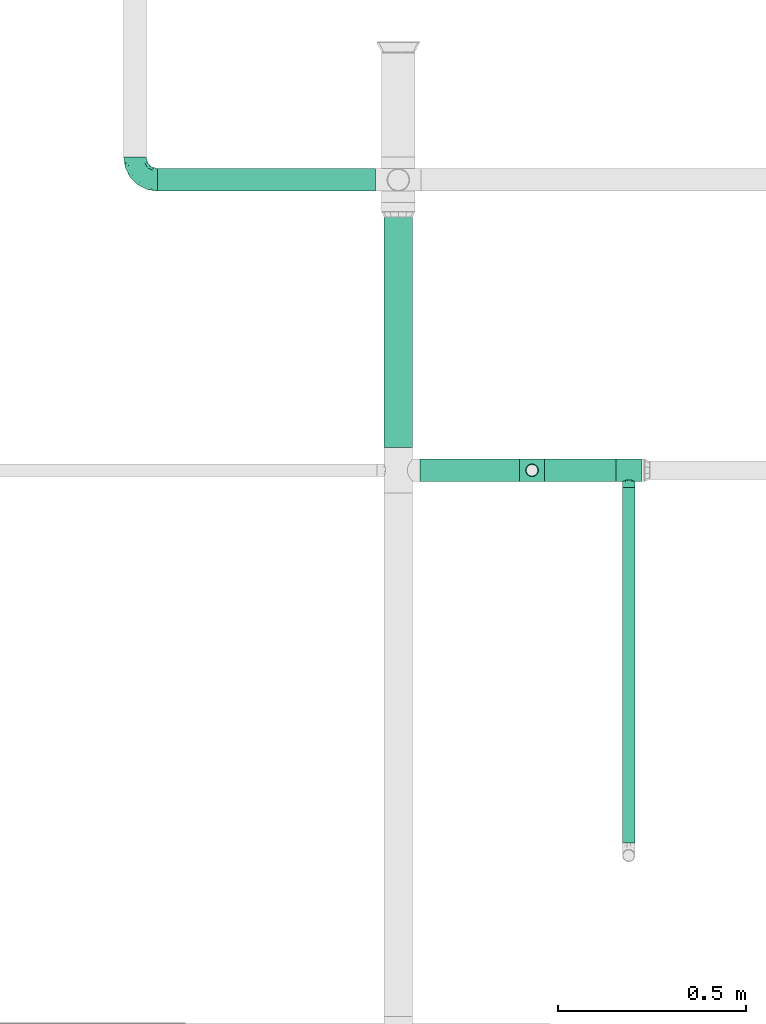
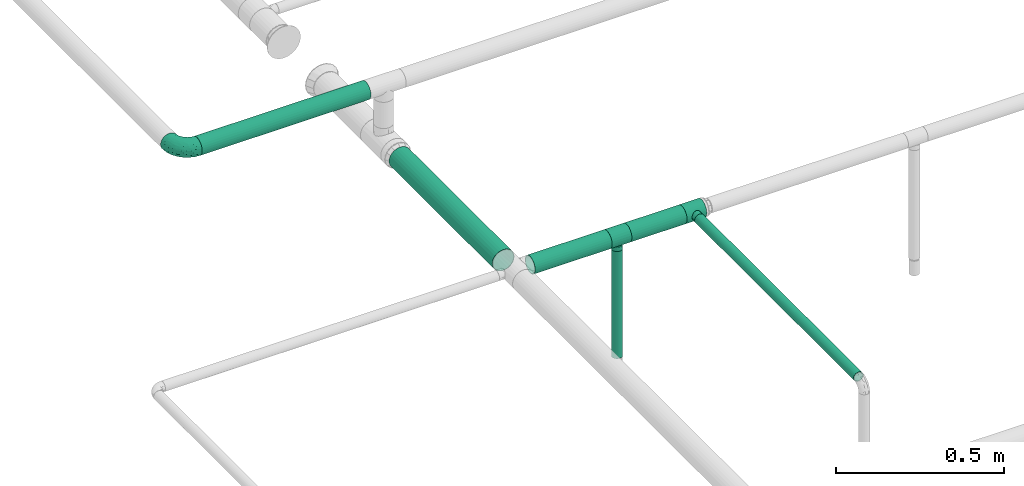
# One storey, part 3 of 45: 6 flow segments, 3 flow fittings.
"""IFC2X3 building model written with IfcOpenShell, lengths in millimetres."""

from ifc_helpers import new_model, entity, si_unit, converted_unit, derived_unit, direction, frame, origin_with_axes, origin_2d_with_axis, place, context, subcontext, project, spatial, hollow_circle, extrude, open_shell, surface_model, source, transform, mapped, type_object, element, save


model = new_model("IFC2X3")

# Units and contexts
model_context = context("Model", 3, precision=0.01, world=frame((0.0, 4.29681676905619e-09, 0.0)), true_north=direction((4.01073788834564e-13, 1.0)))
plan_context = context("Plan", 3, precision=0.01, world=frame((0.0, 4.29681676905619e-09, 0.0)), true_north=direction((4.01073788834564e-13, 1.0)))
body_context = subcontext(model_context, "Body", "Model", "MODEL_VIEW")
ifc_project = project(units=[converted_unit("PLANEANGLEUNIT", "DEGREE", entity("IfcPositiveLengthMeasure", 0.0174532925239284), si_unit("PLANEANGLEUNIT", "RADIAN"), dimensions=[0, 0, 0, 0, 0, 0, 0]), si_unit("AREAUNIT", "SQUARE_METRE"), si_unit("LENGTHUNIT", "METRE", prefix="MILLI"), si_unit("MASSUNIT", "GRAM", prefix="KILO"), si_unit("POWERUNIT", "WATT"), si_unit("PRESSUREUNIT", "PASCAL", prefix="KILO"), si_unit("FORCEUNIT", "NEWTON", prefix="KILO"), si_unit("ELECTRICVOLTAGEUNIT", "VOLT"), si_unit("ELECTRICCURRENTUNIT", "AMPERE"), si_unit("THERMODYNAMICTEMPERATUREUNIT", "DEGREE_CELSIUS"), si_unit("TIMEUNIT", "SECOND"), si_unit("VOLUMEUNIT", "CUBIC_METRE"), derived_unit("LINEARVELOCITYUNIT", [(si_unit("LENGTHUNIT", "METRE"), 1), (si_unit("TIMEUNIT", "SECOND"), -1)]), derived_unit("VOLUMETRICFLOWRATEUNIT", [(si_unit("VOLUMEUNIT", "CUBIC_METRE"), 1), (si_unit("TIMEUNIT", "SECOND"), -1)]), derived_unit("THERMALTRANSMITTANCEUNIT", [(si_unit("POWERUNIT", "WATT"), 1), (si_unit("THERMODYNAMICTEMPERATUREUNIT", "KELVIN"), -1), (si_unit("AREAUNIT", "SQUARE_METRE"), -1)]), derived_unit("SOUNDPRESSUREUNIT", [(si_unit("PRESSUREUNIT", "PASCAL"), 1)])], contexts=[model_context, plan_context])

# Site, building, storey
site_placement = place(None, frame((0.0, -4.29681676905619e-09, 0.0), z_axis=(0.0, 0.0, 1.0), x_axis=(1.0, 0.0, 0.0)))
site = spatial("IfcSite", under=ifc_project, at=site_placement, CompositionType="ELEMENT")
building_placement = place(site_placement, frame((0.0, 4.29681676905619e-09, 0.0), z_axis=(0.0, 0.0, 1.0), x_axis=(1.0, 0.0, 0.0)))
building = spatial("IfcBuilding", under=site, at=building_placement, Name="mc-building", CompositionType="ELEMENT")
storey_placement = place(building_placement, frame((0.0, 0.0, 210200.0), z_axis=(0.0, 0.0, 1.0), x_axis=(1.0, 0.0, 0.0)))
storey = spatial("IfcBuildingStorey", under=building, at=storey_placement, Name="Nivå F - 0,7 m", CompositionType="ELEMENT", Elevation=210200.0)

# Flow fittings
pipe_fitting_type_1 = type_object("IfcPipeFittingType", Name="magi_pipe_fe_tee_centric_90_001", PredefinedType="JUNCTION")
shared_shape_1 = source(origin_with_axes(), body_context, "Body", "SurfaceModel", [
    surface_model("IfcShellBasedSurfaceModel", [(-33.8, 15.1, -26.15397), (-33.8, 7.81634, -29.17096), (-33.8, 0.0, -30.2), (-33.8, 29.17096, -7.81634), (-33.8, 26.15397, -15.1), (-33.8, 21.35462, -21.35462), (-33.8, 30.2, 0.0), (-33.8, -30.2, 0.0), (-33.8, -15.1, -26.15397), (-33.8, -21.35462, -21.35462), (-33.8, -7.81634, -29.17096), (-33.8, -26.15397, -15.1), (-33.8, -29.17096, -7.81634), (-33.8, 26.15397, 15.1), (-33.8, 29.17096, 7.81634), (-33.8, 15.1, 26.15397), (-33.8, -21.35462, 21.35462), (-33.8, 21.35462, 21.35462), (-33.8, 7.81634, 29.17096), (-33.8, -29.17096, 7.81634), (-33.8, -26.15397, 15.1), (-33.8, -7.81634, 29.17096), (-33.8, 0.0, 30.2), (-33.8, -15.1, 26.15397), (33.8, 29.17096, -7.81634), (33.8, 0.0, -30.2), (33.8, 7.81634, -29.17096), (33.8, 21.35462, -21.35462), (33.8, 15.1, -26.15397), (33.8, 26.15397, -15.1), (33.8, -30.2, 0.0), (33.8, -7.81634, -29.17096), (33.8, -21.35462, -21.35462), (33.8, -15.1, -26.15397), (33.8, -29.17096, -7.81634), (33.8, -26.15397, -15.1), (33.8, 30.2, 0.0), (33.8, 29.17096, 7.81634), (33.8, 26.15397, 15.1), (33.8, -29.17096, 7.81634), (33.8, 15.1, 26.15397), (33.8, 7.81634, 29.17096), (33.8, 21.35462, 21.35462), (33.8, -21.35462, 21.35462), (33.8, -26.15397, 15.1), (33.8, -15.1, 26.15397), (33.8, 0.0, 30.2), (33.8, -7.81634, 29.17096), (33.8, -29.68548, 3.90817), (15.846, -29.62306, 5.87488), (16.373, -29.91153, 2.93744), (12.91037, -28.16217, 10.90561), (2.99213, -25.2068, 16.63301), (16.9, -30.2, 0.0), (33.8, -27.66246, 11.45817), (8.50854, -26.43531, 14.60187), (-8.51006, -26.43579, 14.60099), (-33.8, -27.66246, 11.45817), (-12.91447, -28.16405, 10.90075), (-15.84655, -29.62335, 5.87341), (-33.8, -29.68548, 3.90817), (-16.37327, -29.91168, 2.93671), (-16.9, -30.2, 0.0), (-2.99705, -25.20739, 16.63213), (2.99213, -25.2068, -16.63301), (-16.37327, -29.91168, -2.93671), (8.50854, -26.43531, -14.60187), (33.8, -27.66246, -11.45817), (16.373, -29.91153, -2.93744), (-33.8, -29.68548, -3.90817), (-15.84655, -29.62335, -5.87341), (15.846, -29.62306, -5.87488), (12.91037, -28.16217, -10.90561), (33.8, -29.68548, -3.90817), (-2.99705, -25.20739, -16.63213), (-8.51006, -26.43579, -14.60099), (-12.91447, -28.16405, -10.90075), (-33.8, -27.66246, -11.45817), (4.37404, -45.3, -16.32415), (-16.9, -45.3, 0.0), (0.0, -45.3, -16.9), (14.63583, -45.3, -8.45), (8.45, -45.3, -14.63583), (16.32415, -45.3, -4.37404), (11.9501, -45.3, -11.9501), (-11.9501, -45.3, -11.9501), (-8.45, -45.3, -14.63583), (-4.37404, -45.3, -16.32415), (-14.63583, -45.3, -8.45), (-16.32415, -45.3, -4.37404), (16.9, -45.3, 0.0), (8.45, -45.3, 14.63583), (16.32415, -45.3, 4.37404), (14.63583, -45.3, 8.45), (-8.45, -45.3, 14.63583), (11.9501, -45.3, 11.9501), (4.37404, -45.3, 16.32415), (-16.32415, -45.3, 4.37404), (-11.9501, -45.3, 11.9501), (-14.63583, -45.3, 8.45), (0.0, -45.3, 16.9), (-4.37404, -45.3, 16.32415), (-5.75355, -25.82159, 15.61656), (-0.00246, -25.20709, 16.63257), (5.75034, -25.82105, 15.61744), (5.75034, -25.82105, -15.61744), (-0.00246, -25.20709, -16.63257), (-5.75355, -25.82159, -15.61656)], [open_shell([[[0, 1, 2]], [[3, 0, 2]], [[0, 3, 4]], [[5, 0, 4]], [[6, 2, 7]], [[8, 9, 10]], [[9, 2, 10]], [[11, 12, 9]], [[7, 9, 12]], [[9, 7, 2]], [[6, 3, 2]], [[13, 14, 6]], [[7, 15, 13]], [[7, 16, 15]], [[17, 13, 15]], [[18, 15, 16]], [[19, 20, 7]], [[7, 20, 16]], [[21, 22, 23]], [[16, 23, 22]], [[16, 22, 18]], [[7, 13, 6]], [[24, 25, 26]], [[27, 26, 28]], [[29, 24, 26]], [[29, 26, 27]], [[25, 24, 30]], [[31, 32, 33]], [[32, 31, 34]], [[32, 34, 35]], [[34, 31, 30]], [[31, 25, 30]], [[24, 36, 30]], [[36, 37, 38]], [[39, 36, 38]], [[40, 41, 38]], [[40, 38, 42]], [[43, 38, 41]], [[39, 43, 44]], [[39, 38, 43]], [[45, 46, 47]], [[46, 45, 43]], [[41, 46, 43]], [[36, 39, 30]], [[48, 39, 49]], [[30, 48, 50]], [[39, 51, 49]], [[44, 43, 52]], [[30, 50, 53]], [[51, 54, 55]], [[52, 55, 44]], [[48, 49, 50]], [[43, 16, 52]], [[55, 54, 44]], [[56, 57, 58]], [[59, 60, 61]], [[62, 61, 7]], [[59, 58, 19]], [[56, 63, 20]], [[51, 39, 54]], [[20, 57, 56]], [[20, 63, 16]], [[58, 57, 19]], [[63, 52, 16]], [[7, 61, 60]], [[59, 19, 60]], [[43, 23, 16]], [[22, 47, 46]], [[21, 45, 47]], [[18, 46, 41]], [[38, 37, 14]], [[17, 40, 42]], [[13, 42, 38]], [[41, 40, 15]], [[6, 37, 36]], [[23, 45, 21]], [[21, 47, 22]], [[18, 22, 46]], [[41, 15, 18]], [[15, 40, 17]], [[13, 17, 42]], [[14, 13, 38]], [[37, 6, 14]], [[45, 23, 43]], [[4, 24, 29]], [[3, 36, 24]], [[5, 29, 27]], [[25, 31, 10]], [[1, 28, 26]], [[2, 26, 25]], [[27, 28, 0]], [[8, 31, 33]], [[6, 36, 3]], [[3, 24, 4]], [[5, 4, 29]], [[27, 0, 5]], [[0, 28, 1]], [[2, 1, 26]], [[10, 2, 25]], [[31, 8, 10]], [[33, 9, 8]], [[32, 35, 64]], [[7, 65, 62]], [[66, 64, 35]], [[67, 66, 35]], [[32, 64, 9]], [[53, 68, 30]], [[69, 70, 65]], [[71, 72, 34]], [[71, 73, 68]], [[66, 67, 72]], [[34, 72, 67]], [[74, 75, 11]], [[76, 12, 77]], [[11, 9, 74]], [[76, 77, 75]], [[74, 9, 64]], [[76, 70, 12]], [[71, 34, 73]], [[70, 69, 12]], [[65, 7, 69]], [[30, 68, 73]], [[77, 11, 75]], [[32, 9, 33]], [[78, 79, 80]], [[81, 78, 82]], [[81, 83, 78]], [[81, 82, 84]], [[79, 78, 83]], [[80, 85, 86]], [[86, 87, 80]], [[88, 79, 89]], [[85, 80, 88]], [[79, 88, 80]], [[83, 90, 79]], [[91, 90, 92]], [[91, 92, 93]], [[94, 79, 91]], [[91, 93, 95]], [[94, 91, 96]], [[97, 98, 99]], [[98, 97, 94]], [[94, 100, 101]], [[97, 79, 94]], [[96, 100, 94]], [[91, 79, 90]], [[97, 61, 79]], [[58, 99, 98]], [[97, 99, 59]], [[98, 94, 56]], [[61, 62, 79]], [[59, 99, 58]], [[101, 63, 102]], [[56, 58, 98]], [[100, 52, 103]], [[91, 104, 96]], [[100, 96, 52]], [[50, 49, 92]], [[50, 90, 53]], [[104, 91, 55]], [[102, 94, 101]], [[102, 56, 94]], [[100, 63, 101]], [[97, 59, 61]], [[55, 91, 95]], [[95, 51, 55]], [[52, 96, 104]], [[92, 49, 93]], [[90, 50, 92]], [[93, 49, 51]], [[93, 51, 95]], [[103, 63, 100]], [[83, 68, 90]], [[72, 81, 84]], [[83, 81, 71]], [[84, 82, 66]], [[68, 53, 90]], [[71, 81, 72]], [[78, 64, 105]], [[66, 72, 84]], [[80, 74, 106]], [[86, 107, 87]], [[65, 70, 89]], [[105, 82, 78]], [[105, 66, 82]], [[75, 86, 85]], [[83, 71, 68]], [[70, 88, 89]], [[65, 79, 62]], [[85, 88, 76]], [[80, 64, 78]], [[87, 107, 74]], [[74, 80, 87]], [[75, 107, 86]], [[75, 85, 76]], [[76, 88, 70]], [[79, 65, 89]], [[106, 64, 80]]])]),
])
for number, where, z_axis, x_axis, name in (
    (1, (324474.5, 461628.40208, 2938.0), (0.0, 1.0, 0.0), (-1.0, 0.0, 0.0), "magi_pipe_fe_tee_centric_90_001"),
    (2, (324731.5, 461628.40208, 2938.0), (0.0, 0.0, -1.0), (-1.0, 0.0, 0.0), "magi_pipe_fe_tee_centric_90_001"),
):
    element("IfcFlowFitting", number, at=place(storey_placement, frame(where, z_axis=z_axis, x_axis=x_axis)), inside=storey, type_object=pipe_fitting_type_1, Name=name, context=body_context, shape_type="MappedRepresentation", body=[
        mapped(shared_shape_1, transform((0.0, 0.0, 0.0), scale=1.0)),
    ])
pipe_fitting_type_2 = type_object("IfcPipeFittingType", Name="magi_pipe_fe_elbow_short_001", PredefinedType="BEND")
shared_shape_2 = source(origin_with_axes(), body_context, "Body", "SurfaceModel", [
    surface_model("IfcShellBasedSurfaceModel", [(-60.4, 15.1, -26.15397), (-60.4, 7.81634, -29.17096), (-60.4, 0.0, -30.2), (-60.4, -29.17096, -7.81634), (-60.4, -21.35462, 21.35462), (-60.4, 29.17096, -7.81634), (-60.4, 26.15397, -15.1), (-60.4, 21.35462, -21.35462), (-60.4, -15.1, -26.15397), (-60.4, -21.35462, -21.35462), (-60.4, -7.81634, -29.17096), (-60.4, -26.15397, -15.1), (-60.4, -30.2, 0.0), (-60.4, -29.17096, 7.81634), (-60.4, 30.2, 0.0), (-60.4, 29.17096, 7.81634), (-60.4, 26.15397, 15.1), (-60.4, 7.81634, 29.17096), (-60.4, 15.1, 26.15397), (-60.4, 21.35462, 21.35462), (-60.4, -26.15397, 15.1), (-60.4, -7.81634, 29.17096), (-60.4, 0.0, 30.2), (-60.4, -15.1, 26.15397), (0.0, 60.4, -30.2), (-7.81634, 60.4, -29.17096), (-15.1, 60.4, -26.15397), (21.35462, 60.4, 21.35462), (29.17096, 60.4, -7.81634), (-26.15397, 60.4, -15.1), (-29.17096, 60.4, -7.81634), (-21.35462, 60.4, -21.35462), (7.81634, 60.4, -29.17096), (21.35462, 60.4, -21.35462), (15.1, 60.4, -26.15397), (26.15397, 60.4, -15.1), (29.17096, 60.4, 7.81634), (30.2, 60.4, 0.0), (-30.2, 60.4, 0.0), (-29.17096, 60.4, 7.81634), (-26.15397, 60.4, 15.1), (-7.81634, 60.4, 29.17096), (-21.35462, 60.4, 21.35462), (-15.1, 60.4, 26.15397), (26.15397, 60.4, 15.1), (15.1, 60.4, 26.15397), (0.0, 60.4, 30.2), (7.81634, 60.4, 29.17096), (-40.79975, -26.48639, 9.49143), (-44.2927, -23.46036, 16.95222), (-32.40306, -25.76572, 0.0), (-45.54716, -27.84754, 0.0), (-7.73382, -10.42985, 11.64553), (-2.102, -8.06735, 6.35117), (1.74449, -1.74448, 12.51332), (-46.13593, -4.00068, 29.68351), (-42.2898, 4.62925, 30.14853), (10.31662, 7.37496, 11.34434), (18.44156, 24.57514, 15.02148), (7.07276, 10.95732, 19.27498), (-30.06693, -0.27102, 29.27145), (-44.17726, -11.39441, 27.16031), (-23.4551, -7.13383, 25.24246), (-38.74025, -17.25266, 22.43475), (-27.059, -23.14697, 6.2131), (-19.77486, -19.33133, 0.0), (-10.95732, -7.07276, 19.27498), (-5.39458, 5.39458, 24.69106), (-29.52069, 48.20084, 13.12597), (-25.22813, 47.01796, 19.8404), (-11.27311, 52.093, 28.2877), (-4.13904, 45.17494, 30.12582), (-46.55352, 11.8443, 28.52822), (-7.88305, 20.22717, 29.65331), (-15.00576, 5.54025, 28.20072), (-3.0852, 16.31623, 27.75343), (-52.24998, 18.2886, 24.60768), (-10.49591, 29.69865, 30.14582), (-22.36958, 22.36958, 29.4662), (-17.98262, 13.19715, 30.04443), (-47.74519, 32.16745, 6.63994), (-48.21585, 29.51581, 13.12396), (-37.49729, 37.49729, 11.28901), (-47.20967, 25.1754, 19.81929), (17.25266, 38.74025, 22.43475), (-31.32046, 40.03273, 17.09289), (11.39441, 44.17725, 27.16031), (23.46036, 44.2927, 16.95222), (26.48639, 40.79975, 9.49143), (-7.14666, -12.89694, 0.0), (-14.66463, -16.61192, 7.82462), (4.00068, 46.13593, 29.68351), (-33.18602, 12.93608, 29.65955), (-29.63414, 7.40029, 30.18711), (19.33133, 19.77486, 0.0), (23.14697, 27.059, 6.2131), (16.61192, 14.66463, 7.82462), (27.84754, 45.54716, 0.0), (-32.10611, 20.49149, 27.93323), (-24.57514, -18.44156, 15.02148), (-21.89487, 39.03366, 25.38224), (-18.45005, 50.6405, 24.73297), (-31.78933, 48.71949, 6.47886), (-37.84917, 39.61073, 5.315), (13.91334, 24.32737, 20.46816), (7.13383, 23.4551, 25.24246), (-34.24603, 45.3, 0.0), (-27.95749, 31.89166, 24.81537), (-41.58677, 20.50028, 25.43151), (-0.46157, 0.46157, 17.84239), (-17.23338, 31.26213, 29.03145), (-24.05994, 29.23812, 27.47858), (-13.06094, 40.92174, 28.76128), (-31.83392, 33.72702, 21.39203), (-38.78737, 32.45032, 16.84022), (0.27102, 30.06693, 29.27145), (-24.21469, -13.23741, 21.05734), (8.23548, 2.19333, 6.02161), (25.76572, 32.40306, 0.0), (12.89694, 7.14666, 0.0), (-45.3, 34.24603, 0.0), (2.87514, -2.87514, 0.0), (-44.53432, 26.00869, -20.11577), (-48.18822, 29.5248, -13.12766), (-24.67192, -7.62159, -25.33714), (-26.22398, -0.37671, -28.72374), (-12.13397, -0.50536, -24.74577), (-47.80891, 3.81859, -30.10171), (-44.05719, -27.03585, -9.84546), (-37.94552, -22.39569, -16.35738), (-28.81663, -22.64668, -10.132), (-43.93799, 12.32789, -28.63778), (-33.27, 7.1392, -30.19348), (-26.0087, 44.53432, -20.11577), (-48.89164, 31.68872, -6.60822), (-18.95522, 47.41145, -24.9828), (-12.32789, 43.93799, -28.63778), (-38.42778, 38.42778, -7.21049), (18.04263, 43.69152, -22.80146), (10.42233, 38.24532, -26.85918), (11.90576, 51.00473, -27.48545), (-5.88381, -10.62327, -7.95335), (-5.9694, -7.83116, -13.76182), (3.24899, -2.56331, -7.96861), (-17.62229, 16.32998, -30.18286), (-28.62959, 17.86952, -29.30113), (-47.41145, 18.95522, -24.98279), (-50.84455, -24.04089, -17.54629), (-29.38053, 34.30665, -22.74674), (-27.91099, 27.91099, -26.51666), (-36.91219, 25.51094, -23.99233), (2.63361, -0.55507, -12.94367), (-43.69152, -18.04263, -22.80146), (22.39569, 37.94552, -16.35738), (27.03585, 44.05719, -9.84546), (22.64668, 28.81663, -10.132), (-51.00473, -11.90576, -27.48545), (3.80785, 44.49426, -29.64782), (-19.0921, -14.69952, -16.47487), (-22.5489, -12.31934, -21.1263), (-10.94772, -7.46239, -18.88204), (-32.95885, -13.78948, -23.71249), (-38.24532, -10.42233, -26.85918), (-44.49427, -3.80785, -29.64782), (-22.6301, 37.15314, -25.58239), (-31.68872, 48.89164, -6.60822), (-3.8186, 47.80891, -30.10171), (-10.66133, 10.66133, -28.51691), (0.37671, 26.22398, -28.72374), (1.27136, 14.18619, -25.18541), (-29.5248, 48.18821, -13.12766), (-36.27113, 36.27113, -14.88553), (24.04089, 50.84455, -17.54629), (17.50188, 24.2636, -16.21902), (9.73525, 11.44907, -16.75087), (12.31934, 22.5489, -21.1263), (6.24176, 25.78208, -26.38266), (-7.1392, 33.27, -30.19348), (-36.7166, 19.4356, -27.21946), (-18.00754, 29.38864, -29.15505), (-0.28629, 0.28629, -17.49884), (-13.98848, -16.88492, -5.19509), (15.48569, 15.00432, -11.24742), (16.88492, 13.98848, -5.19509), (3.55782, 9.20508, -21.18402), (-15.00432, -15.48569, -11.24742)], [open_shell([[[0, 1, 2]], [[2, 3, 4]], [[0, 5, 6]], [[7, 0, 6]], [[2, 4, 0]], [[8, 9, 10]], [[9, 2, 10]], [[11, 3, 9]], [[9, 3, 2]], [[12, 13, 3]], [[5, 0, 4]], [[14, 4, 15]], [[16, 15, 17]], [[17, 18, 19]], [[16, 17, 19]], [[17, 15, 4]], [[20, 4, 13]], [[13, 4, 3]], [[21, 22, 23]], [[17, 4, 23]], [[17, 23, 22]], [[14, 5, 4]], [[24, 25, 26]], [[27, 28, 24]], [[29, 30, 26]], [[29, 26, 31]], [[26, 27, 24]], [[32, 33, 34]], [[32, 24, 33]], [[33, 28, 35]], [[24, 28, 33]], [[28, 36, 37]], [[27, 26, 30]], [[38, 39, 40]], [[38, 40, 41]], [[42, 43, 41]], [[42, 41, 40]], [[41, 27, 30]], [[36, 27, 44]], [[28, 27, 36]], [[45, 46, 47]], [[45, 27, 41]], [[46, 45, 41]], [[30, 38, 41]], [[48, 49, 20]], [[50, 48, 51]], [[52, 53, 54]], [[13, 48, 20]], [[13, 51, 48]], [[22, 55, 56]], [[20, 49, 4]], [[57, 58, 59]], [[60, 61, 62]], [[63, 23, 4]], [[63, 61, 23]], [[64, 50, 65]], [[62, 66, 67]], [[40, 68, 69]], [[41, 70, 71]], [[17, 72, 18]], [[73, 74, 75]], [[18, 76, 19]], [[21, 55, 22]], [[77, 78, 79]], [[80, 81, 82]], [[16, 83, 81]], [[84, 27, 45]], [[14, 15, 80]], [[15, 16, 81]], [[68, 85, 69]], [[83, 16, 19]], [[22, 56, 17]], [[45, 86, 84]], [[19, 76, 83]], [[87, 58, 88]], [[40, 39, 68]], [[89, 90, 65]], [[46, 91, 47]], [[65, 90, 64]], [[46, 41, 71]], [[92, 93, 79]], [[88, 36, 44]], [[44, 27, 87]], [[87, 88, 44]], [[94, 95, 96]], [[88, 97, 36]], [[98, 72, 92]], [[49, 99, 63]], [[69, 100, 101]], [[82, 102, 103]], [[104, 105, 59]], [[106, 102, 38]], [[98, 107, 108]], [[102, 82, 68]], [[86, 45, 47]], [[69, 42, 40]], [[109, 54, 57]], [[110, 100, 111]], [[23, 61, 21]], [[101, 43, 42]], [[70, 41, 43]], [[112, 77, 71]], [[84, 86, 105]], [[96, 95, 58]], [[100, 69, 113]], [[72, 17, 56]], [[108, 113, 83]], [[81, 114, 82]], [[112, 110, 77]], [[91, 71, 115]], [[62, 61, 63]], [[55, 61, 60]], [[116, 99, 66]], [[74, 62, 67]], [[91, 86, 47]], [[105, 86, 115]], [[75, 105, 115]], [[109, 67, 66]], [[59, 105, 67]], [[48, 64, 99]], [[99, 49, 48]], [[63, 4, 49]], [[27, 84, 87]], [[58, 87, 84]], [[92, 72, 56]], [[76, 72, 108]], [[102, 68, 39]], [[82, 114, 85]], [[98, 111, 107]], [[112, 70, 101]], [[114, 83, 113]], [[82, 103, 80]], [[92, 79, 78]], [[115, 71, 77]], [[74, 79, 60]], [[77, 79, 73]], [[71, 91, 46]], [[86, 91, 115]], [[61, 55, 21]], [[56, 55, 60]], [[57, 54, 117]], [[104, 59, 58]], [[116, 66, 62]], [[52, 99, 90]], [[13, 12, 51]], [[97, 88, 118]], [[97, 37, 36]], [[53, 90, 89]], [[90, 53, 52]], [[94, 96, 119]], [[88, 95, 118]], [[117, 54, 53]], [[92, 56, 93]], [[98, 92, 78]], [[111, 98, 78]], [[72, 98, 108]], [[110, 111, 78]], [[107, 111, 100]], [[38, 102, 39]], [[102, 106, 103]], [[106, 120, 103]], [[103, 120, 80]], [[14, 80, 120]], [[15, 81, 80]], [[56, 60, 93]], [[60, 79, 93]], [[117, 121, 119]], [[121, 117, 53]], [[53, 89, 121]], [[119, 96, 117]], [[117, 96, 57]], [[77, 110, 78]], [[100, 110, 112]], [[83, 114, 81]], [[85, 114, 113]], [[69, 85, 113]], [[82, 85, 68]], [[109, 52, 54]], [[99, 52, 66]], [[69, 101, 42]], [[112, 101, 100]], [[100, 113, 107]], [[108, 107, 113]], [[62, 74, 60]], [[75, 74, 67]], [[105, 75, 67]], [[73, 75, 115]], [[77, 73, 115]], [[74, 73, 79]], [[99, 64, 90]], [[50, 64, 48]], [[118, 95, 94]], [[58, 95, 88]], [[58, 57, 96]], [[109, 57, 59]], [[72, 76, 18]], [[83, 76, 108]], [[101, 70, 43]], [[71, 70, 112]], [[58, 84, 104]], [[105, 104, 84]], [[67, 109, 59]], [[52, 109, 66]], [[62, 63, 116]], [[99, 116, 63]], [[122, 6, 123]], [[124, 125, 126]], [[2, 1, 127]], [[128, 129, 130]], [[127, 131, 132]], [[29, 31, 133]], [[120, 134, 14]], [[135, 26, 136]], [[123, 134, 137]], [[138, 139, 140]], [[122, 7, 6]], [[141, 142, 143]], [[144, 132, 145]], [[131, 0, 146]], [[128, 11, 147]], [[148, 149, 150]], [[128, 51, 3]], [[142, 151, 143]], [[152, 9, 8]], [[153, 154, 155]], [[156, 152, 8]], [[32, 157, 24]], [[158, 159, 160]], [[147, 11, 9]], [[129, 152, 161]], [[156, 8, 10]], [[162, 163, 125]], [[154, 35, 28]], [[120, 106, 137]], [[149, 148, 164]], [[38, 30, 165]], [[163, 10, 2]], [[6, 5, 123]], [[25, 166, 136]], [[167, 168, 169]], [[170, 133, 171]], [[25, 24, 166]], [[34, 33, 138]], [[157, 32, 140]], [[30, 29, 170]], [[33, 35, 172]], [[26, 135, 31]], [[132, 131, 145]], [[32, 34, 140]], [[173, 174, 175]], [[169, 168, 176]], [[25, 136, 26]], [[175, 138, 173]], [[168, 177, 157]], [[163, 162, 156]], [[153, 172, 154]], [[11, 128, 3]], [[154, 97, 118]], [[131, 178, 145]], [[0, 7, 146]], [[175, 139, 138]], [[155, 118, 94]], [[131, 1, 0]], [[146, 178, 131]], [[170, 137, 165]], [[149, 179, 145]], [[171, 133, 148]], [[160, 180, 142]], [[65, 181, 89]], [[170, 165, 30]], [[137, 171, 123]], [[172, 138, 33]], [[138, 153, 173]], [[168, 157, 139]], [[166, 157, 177]], [[176, 175, 169]], [[168, 167, 144]], [[154, 28, 97]], [[155, 182, 173]], [[162, 124, 161]], [[147, 152, 129]], [[127, 163, 2]], [[132, 144, 125]], [[132, 125, 163]], [[125, 167, 126]], [[129, 158, 130]], [[28, 37, 97]], [[143, 182, 183]], [[169, 126, 167]], [[7, 122, 146]], [[178, 150, 149]], [[136, 179, 164]], [[133, 31, 135]], [[123, 5, 134]], [[122, 123, 171]], [[133, 170, 29]], [[137, 170, 171]], [[184, 175, 174]], [[180, 160, 126]], [[126, 169, 184]], [[126, 159, 124]], [[51, 128, 50]], [[51, 12, 3]], [[131, 127, 1]], [[163, 127, 132]], [[157, 166, 24]], [[136, 166, 177]], [[164, 179, 149]], [[144, 167, 125]], [[179, 144, 145]], [[168, 144, 177]], [[136, 177, 179]], [[144, 179, 177]], [[141, 121, 89]], [[89, 181, 141]], [[154, 118, 155]], [[183, 155, 94]], [[143, 183, 119]], [[119, 183, 94]], [[155, 183, 182]], [[181, 130, 185]], [[50, 128, 130]], [[130, 181, 65]], [[50, 130, 65]], [[141, 181, 185]], [[142, 141, 185]], [[143, 121, 141]], [[158, 160, 142]], [[142, 180, 151]], [[158, 142, 185]], [[126, 160, 159]], [[130, 158, 185]], [[129, 159, 158]], [[14, 134, 5]], [[120, 137, 134]], [[137, 106, 165]], [[38, 165, 106]], [[174, 151, 180]], [[182, 143, 151]], [[150, 146, 122]], [[149, 145, 178]], [[146, 150, 178]], [[122, 171, 148]], [[148, 150, 122]], [[164, 133, 135]], [[133, 164, 148]], [[164, 135, 136]], [[138, 140, 34]], [[157, 140, 139]], [[154, 172, 35]], [[138, 172, 153]], [[163, 156, 10]], [[152, 156, 162]], [[152, 147, 9]], [[128, 147, 129]], [[155, 173, 153]], [[174, 173, 182]], [[151, 174, 182]], [[174, 180, 184]], [[126, 184, 180]], [[175, 184, 169]], [[168, 139, 176]], [[175, 176, 139]], [[161, 124, 159]], [[125, 124, 162]], [[129, 161, 159]], [[162, 161, 152]], [[143, 119, 121]]])]),
])
flow_fitting_placement = place(storey_placement, frame((323419.17326, 462400.28184, 3145.0), z_axis=(0.0, 0.0, 1.0), x_axis=(0.0, -1.0, 0.0)))
element("IfcFlowFitting", 3, at=flow_fitting_placement, inside=storey, type_object=pipe_fitting_type_2, Name="magi_pipe_fe_elbow_short_001", context=body_context, shape_type="MappedRepresentation", body=[
    mapped(shared_shape_2, transform((0.0, 0.0, 0.0), scale=1.0)),
])

# Flow segments
pipe_segment_type = type_object("IfcPipeSegmentType", Name="Stålrør normaltykke", PredefinedType="RIGIDSEGMENT")
shared_shape_3 = source(origin_with_axes(), body_context, "Body", "SweptSolid", [
    extrude(hollow_circle(Radius=30.1, WallThickness=2.0, at=origin_2d_with_axis()), frame((0.0, 0.0, 0.0), z_axis=(1.0, 0.0, 0.0), x_axis=(0.0, 1.0, 0.0)), (0.0, 0.0, 1.0), 579.2),
])
flow_segment_1_placement = place(storey_placement, frame((323479.57326, 462400.28184, 3145.0), z_axis=(0.0, 0.0, 1.0), x_axis=(1.0, 0.0, 0.0)))
element("IfcFlowSegment", 4, at=flow_segment_1_placement, inside=storey, type_object=pipe_segment_type, Name="Stålrør normaltykke", context=body_context, shape_type="MappedRepresentation", body=[
    mapped(shared_shape_3, transform((0.0, 0.0, 0.0), scale=1.0)),
])
shared_shape_4 = source(origin_with_axes(), body_context, "Body", "SweptSolid", [
    extrude(hollow_circle(Radius=38.0, WallThickness=2.0, at=origin_2d_with_axis()), frame((0.0, 0.0, 0.0), z_axis=(1.0, 0.0, 0.0), x_axis=(0.0, 1.0, 0.0)), (0.0, 0.0, 1.0), 613.3),
])
flow_segment_2_placement = place(storey_placement, frame((324119.17326, 462302.08184, 2938.0), z_axis=(0.0, 0.0, 1.0), x_axis=(0.0, -1.0, 0.0)))
element("IfcFlowSegment", 5, at=flow_segment_2_placement, inside=storey, type_object=pipe_segment_type, Name="Stålrør normaltykke", context=body_context, shape_type="MappedRepresentation", body=[
    mapped(shared_shape_4, transform((0.0, 0.0, 0.0), scale=1.0)),
])
shared_shape_5 = source(origin_with_axes(), body_context, "Body", "SweptSolid", [
    extrude(hollow_circle(Radius=16.9, WallThickness=2.0, at=origin_2d_with_axis()), frame((0.0, 0.0, 0.0), z_axis=(1.0, 0.0, 0.0), x_axis=(0.0, 1.0, 0.0)), (0.0, 0.0, 1.0), 388.7),
])
flow_segment_3_placement = place(storey_placement, frame((324474.5, 461628.40208, 2892.70000000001), z_axis=(0.0, 1.0, 0.0), x_axis=(0.0, 0.0, -1.0)))
element("IfcFlowSegment", 6, at=flow_segment_3_placement, inside=storey, type_object=pipe_segment_type, Name="Stålrør normaltykke", context=body_context, shape_type="MappedRepresentation", body=[
    mapped(shared_shape_5, transform((0.0, 0.0, 0.0), scale=1.0)),
])
shared_shape_6 = source(origin_with_axes(), body_context, "Body", "SweptSolid", [
    extrude(hollow_circle(Radius=30.1, WallThickness=2.0, at=origin_2d_with_axis()), frame((0.0, 0.0, 0.0), z_axis=(1.0, 0.0, 0.0), x_axis=(0.0, 1.0, 0.0)), (0.0, 0.0, 1.0), 264.4),
])
flow_segment_4_placement = place(storey_placement, frame((324176.32326, 461628.40208, 2938.0), z_axis=(0.0, 0.0, 1.0), x_axis=(1.0, 0.0, 0.0)))
element("IfcFlowSegment", 7, at=flow_segment_4_placement, inside=storey, type_object=pipe_segment_type, Name="Stålrør normaltykke", context=body_context, shape_type="MappedRepresentation", body=[
    mapped(shared_shape_6, transform((0.0, 0.0, 0.0), scale=1.0)),
])
shared_shape_7 = source(origin_with_axes(), body_context, "Body", "SweptSolid", [
    extrude(hollow_circle(Radius=16.9, WallThickness=2.0, at=origin_2d_with_axis()), frame((0.0, 0.0, 0.0), z_axis=(1.0, 0.0, 0.0), x_axis=(0.0, 1.0, 0.0)), (0.0, 0.0, 1.0), 944.8),
])
flow_segment_5_placement = place(storey_placement, frame((324731.5, 461583.10208, 2938.0), z_axis=(0.0, 0.0, 1.0), x_axis=(0.0, -1.0, 0.0)))
element("IfcFlowSegment", 8, at=flow_segment_5_placement, inside=storey, type_object=pipe_segment_type, Name="Stålrør normaltykke", context=body_context, shape_type="MappedRepresentation", body=[
    mapped(shared_shape_7, transform((0.0, 0.0, 0.0), scale=1.0)),
])
shared_shape_8 = source(origin_with_axes(), body_context, "Body", "SweptSolid", [
    extrude(hollow_circle(Radius=30.1, WallThickness=2.0, at=origin_2d_with_axis()), frame((0.0, 0.0, 0.0), z_axis=(1.0, 0.0, 0.0), x_axis=(0.0, 1.0, 0.0)), (0.0, 0.0, 1.0), 189.4),
])
flow_segment_6_placement = place(storey_placement, frame((324508.3, 461628.40208, 2938.0), z_axis=(0.0, 0.0, 1.0), x_axis=(1.0, 0.0, 0.0)))
element("IfcFlowSegment", 9, at=flow_segment_6_placement, inside=storey, type_object=pipe_segment_type, Name="Stålrør normaltykke", context=body_context, shape_type="MappedRepresentation", body=[
    mapped(shared_shape_8, transform((0.0, 0.0, 0.0), scale=1.0)),
])

save(model, "model.ifc")
